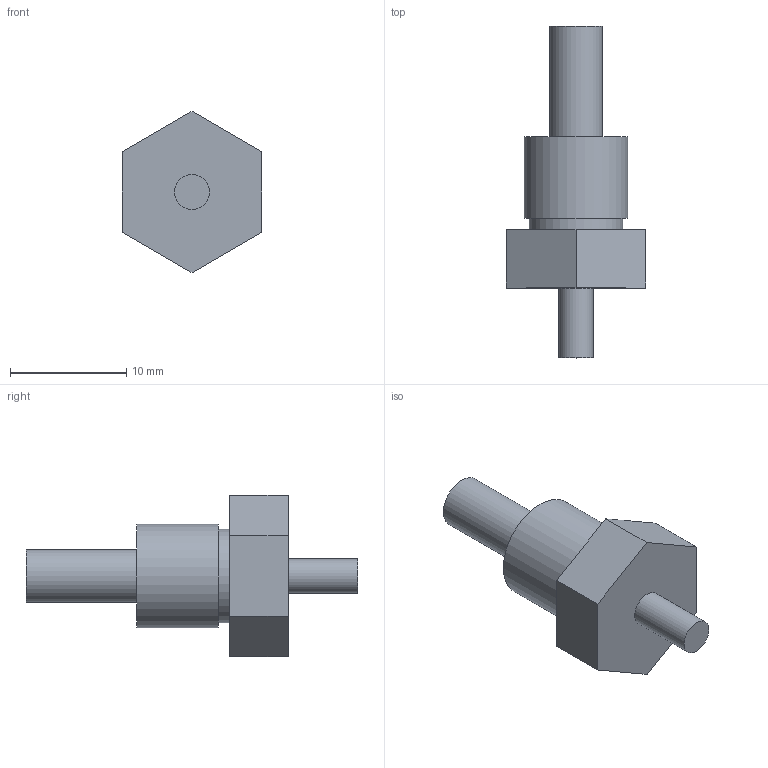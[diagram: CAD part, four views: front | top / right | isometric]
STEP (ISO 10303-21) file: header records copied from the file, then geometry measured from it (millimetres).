
FILE_DESCRIPTION(('Open CASCADE Model'),'2;1');
FILE_NAME('Open CASCADE Shape Model','2026-09-22T23:00:06',('Author'),( 'Open CASCADE'),'Open CASCADE STEP processor 7.9','Open CASCADE 7.9' ,'Unknown');
FILE_SCHEMA(('AUTOMOTIVE_DESIGN { 1 0 10303 214 1 1 1 1 }'));
Length unit declared in the file: millimetre
Products named in the file (1): Open CASCADE STEP translator 7.9 10
Bounding box: 12 x 28.5 x 13.86 mm (x, y, z)
Volume: 1302.8 mm3; surface area: 892.9 mm2
Topology: 1 solids, 1 shells, 16 faces, 30 edges, 20 vertices
Faces by surface type: plane 12, cylinder 4
Full cylindrical faces by diameter (mm): 3 x1, 4.5 x1, 8 x1, 8.9 x1
Entity records: 811 total; most frequent: CARTESIAN_POINT 145, DIRECTION 129, LINE 74, VECTOR 74, ORIENTED_EDGE 60, PCURVE 60, DEFINITIONAL_REPRESENTATION 60, EDGE_CURVE 30
